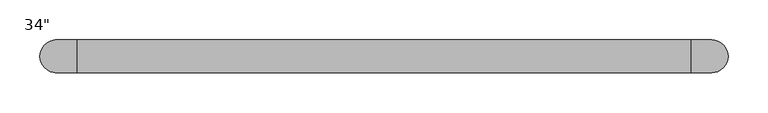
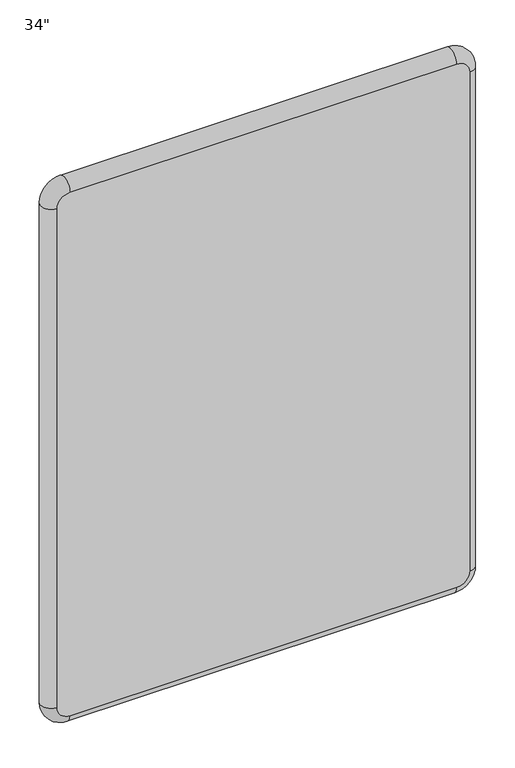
"""IFC4 building model written with IfcOpenShell, lengths in millimetres: furniture geometry."""

import ifcopenshell
import ifcopenshell.guid

model = None  # the IFC model being written
_history = None  # IfcOwnerHistory: only IFC2X3 demands one
_inside = {}  # id of a spatial element -> (the spatial element, [elements in it])
_under = {}  # id of a project, library or spatial element -> (it, [spatial elements below it])
_declared = {}  # id of a project -> (the project, [libraries it declares])
_typed = {}  # id of a type object -> (the type object, [elements of that type])
_made_of = {}  # id of a material, layer set ... -> (it, [elements and type objects made of it])


def new_model(schema):
    """Start an empty IFC model of exactly this schema.

    Asked for "IFC4X3", IfcOpenShell would pick the latest addendum, in which some entities
    have other attributes; the version numbers below select the first issue.
    IFC2X3 requires an IfcOwnerHistory on every rooted entity: one is made here for all.
    """
    global model, _history
    if schema == "IFC4X3":
        model = ifcopenshell.file(schema_version=(4, 3, 0, 0))
    else:
        model = ifcopenshell.file(schema=schema)
    _inside.clear()
    _under.clear()
    _declared.clear()
    _typed.clear()
    _made_of.clear()
    _history = None
    if model.schema == "IFC2X3":
        org = make("IfcOrganization", Name="unknown")
        user = make(
            "IfcPersonAndOrganization",
            ThePerson=make("IfcPerson", FamilyName="unknown"),
            TheOrganization=org,
        )
        app = make(
            "IfcApplication",
            ApplicationDeveloper=org,
            Version="unknown",
            ApplicationFullName="unknown",
            ApplicationIdentifier="unknown",
        )
        _history = make(
            "IfcOwnerHistory",
            OwningUser=user,
            OwningApplication=app,
            ChangeAction="ADDED",
            CreationDate=0,
        )
    return model


def make(cls, **values):
    """One entity of the class cls with the attributes given. An attribute that is None is left unset."""
    return model.create_entity(
        cls, **{name: value for name, value in values.items() if value is not None}
    )


def rooted(cls, **values):
    """An entity with a GlobalId (a new one), such as an element, a storey or a relation."""
    return make(cls, GlobalId=ifcopenshell.guid.new(), OwnerHistory=_history, **values)


def si_unit(unit_type, name, prefix=None):
    """IfcSIUnit, for example si_unit("LENGTHUNIT", "METRE", prefix="MILLI")."""
    return make("IfcSIUnit", UnitType=unit_type, Prefix=prefix, Name=name)


def assignment(units):
    """IfcUnitAssignment: the units of a project."""
    return None if units is None else make("IfcUnitAssignment", Units=units)


def point(xyz):
    """IfcCartesianPoint."""
    return None if xyz is None else make("IfcCartesianPoint", Coordinates=xyz)


def direction(xyz):
    """IfcDirection."""
    return None if xyz is None else make("IfcDirection", DirectionRatios=xyz)


def frame(location, z_axis=None, x_axis=None):
    """IfcAxis2Placement3D, a coordinate frame: its origin and axes. An axis left out is left unset."""
    return make(
        "IfcAxis2Placement3D",
        Location=point(location),
        Axis=direction(z_axis),
        RefDirection=direction(x_axis),
    )


def origin():
    """The frame at (0, 0, 0) with its axes left unset."""
    return frame((0.0, 0.0, 0.0))


def place(relative_to, where):
    """IfcLocalPlacement: puts the frame where relative to a parent placement (None: the world)."""
    return make(
        "IfcLocalPlacement", PlacementRelTo=relative_to, RelativePlacement=where
    )


def context(
    kind, dimensions, precision=None, world=None, true_north=None, identifier=None
):
    """IfcGeometricRepresentationContext, for example the 3D "Model" context."""
    return make(
        "IfcGeometricRepresentationContext",
        ContextIdentifier=identifier,
        ContextType=kind,
        CoordinateSpaceDimension=dimensions,
        Precision=precision,
        WorldCoordinateSystem=world,
        TrueNorth=true_north,
    )


def project(units=None, contexts=None):
    """IfcProject with its units and contexts."""
    return rooted(
        "IfcProject",
        Name="project",
        RepresentationContexts=contexts,
        UnitsInContext=assignment(units),
    )


def spatial(cls, under=None, at=None, **own):
    """A site, building, storey or space (cls), placed at a placement, below another one or the project."""
    s = rooted(cls, ObjectPlacement=at, **own)
    if under is not None:
        _under.setdefault(under.id(), (under, []))[1].append(s)
    return s


def circle_curve(where, radius):
    """IfcCircle in the frame where."""
    return make("IfcCircle", Position=where, Radius=radius)


def ellipse_curve(where, semi_axis1, semi_axis2):
    """IfcEllipse in the frame where."""
    return make(
        "IfcEllipse", Position=where, SemiAxis1=semi_axis1, SemiAxis2=semi_axis2
    )


def trimmed(basis, trim1, trim2, sense, master):
    """IfcTrimmedCurve: the piece of a basis curve between two trims."""
    return make(
        "IfcTrimmedCurve",
        BasisCurve=basis,
        Trim1=trim1,
        Trim2=trim2,
        SenseAgreement=sense,
        MasterRepresentation=master,
    )


def shape(context_of_items, identifier, shape_type, items):
    """IfcShapeRepresentation: the items that make up one representation, for example the "Body"."""
    return make(
        "IfcShapeRepresentation",
        ContextOfItems=context_of_items,
        RepresentationIdentifier=identifier,
        RepresentationType=shape_type,
        Items=items,
    )


def source(mapping_origin, context_of_items, identifier, shape_type, items):
    """IfcRepresentationMap: a shape defined once, which mapped items show again and again."""
    return make(
        "IfcRepresentationMap",
        MappingOrigin=mapping_origin,
        MappedRepresentation=shape(context_of_items, identifier, shape_type, items),
    )


def transform(
    local_origin,
    x_axis=None,
    y_axis=None,
    z_axis=None,
    scale=None,
    scale2=None,
    scale3=None,
    uniform=True,
):
    """IfcCartesianTransformationOperator3D, or its non-uniform kind. x_axis, y_axis, z_axis: its Axis1, 2, 3."""
    if uniform:
        return make(
            "IfcCartesianTransformationOperator3D",
            Axis1=direction(x_axis),
            Axis2=direction(y_axis),
            LocalOrigin=point(local_origin),
            Scale=scale,
            Axis3=direction(z_axis),
        )
    return make(
        "IfcCartesianTransformationOperator3DnonUniform",
        Axis1=direction(x_axis),
        Axis2=direction(y_axis),
        LocalOrigin=point(local_origin),
        Scale=scale,
        Axis3=direction(z_axis),
        Scale2=scale2,
        Scale3=scale3,
    )


def mapped(mapping_source, mapping_target):
    """IfcMappedItem: shows the shape of a source again, moved by a transform."""
    return make(
        "IfcMappedItem", MappingSource=mapping_source, MappingTarget=mapping_target
    )


def made_of(thing, what):
    """Note that an element or type object is made of a material, layer set ...; save() writes the relation."""
    if what is not None:
        _made_of.setdefault(what.id(), (what, []))[1].append(thing)
    return thing


def element(
    cls,
    number,
    at=None,
    inside=None,
    cuts=None,
    type_object=None,
    material=None,
    context=None,
    identifier="Body",
    shape_type=None,
    held_by="IfcProductDefinitionShape",
    body=None,
    shapes=None,
    **own,
):
    """One element of the class cls, such as IfcWall. Its Tag is "e" and its number.

    at: its placement. inside: the storey or other place that contains it. cuts: it is an
    opening in that element (IfcRelVoidsElement). A single representation is given by context,
    identifier, shape_type and body (its items); several are given by shapes. held_by: the class
    of the entity that holds the representations. save() writes the other relations.
    """
    e = rooted(cls, Tag="e%d" % number, ObjectPlacement=at, **own)
    if body is not None:
        shapes = [shape(context, identifier, shape_type, body)]
    if shapes is not None:
        e.Representation = make(held_by, Representations=shapes)
    if inside is not None:
        _inside.setdefault(inside.id(), (inside, []))[1].append(e)
    if cuts is not None:
        rooted(
            "IfcRelVoidsElement", RelatingBuildingElement=cuts, RelatedOpeningElement=e
        )
    if type_object is not None:
        _typed.setdefault(type_object.id(), (type_object, []))[1].append(e)
    return made_of(e, material)


def aggregate(whole, parts):
    """IfcRelAggregates: a whole, such as a stair, and the parts it consists of."""
    return rooted("IfcRelAggregates", RelatingObject=whole, RelatedObjects=parts)


def save(model, path):
    """Write the relations noted so far, then the file.

    IfcRelAggregates (storeys below a building ...), IfcRelContainedInSpatialStructure (elements
    in a storey), IfcRelDefinesByType, IfcRelAssociatesMaterial and IfcRelDeclares: one each for
    every whole, place, type object, material and project.
    """
    for whole, parts in _under.values():
        aggregate(whole, parts)
    for where, things in _inside.values():
        rooted(
            "IfcRelContainedInSpatialStructure",
            RelatedElements=things,
            RelatingStructure=where,
        )
    for kind, things in _typed.values():
        rooted("IfcRelDefinesByType", RelatedObjects=things, RelatingType=kind)
    for what, things in _made_of.values():
        rooted("IfcRelAssociatesMaterial", RelatedObjects=things, RelatingMaterial=what)
    for by, libraries in _declared.values():
        rooted("IfcRelDeclares", RelatingContext=by, RelatedDefinitions=libraries)
    model.write(path)


def plane_surface(at):
    """IfcPlane: the flat surface through the origin of the frame at, square to its z axis."""
    return make("IfcPlane", Position=at)


def cylinder_surface(at, radius):
    """IfcCylindricalSurface: all points at the distance radius from the z axis of the frame at."""
    return make("IfcCylindricalSurface", Position=at, Radius=radius)


def revolved_surface(curve, axis_point, axis_direction):
    """IfcSurfaceOfRevolution: the curve turned about the line through axis_point along axis_direction."""
    return make(
        "IfcSurfaceOfRevolution",
        SweptCurve=make("IfcArbitraryOpenProfileDef", ProfileType="CURVE", Curve=curve),
        AxisPosition=make("IfcAxis1Placement", Location=point(axis_point), Axis=direction(axis_direction)),
    )


def advanced_brep(points, edges, surfaces, faces):
    """IfcAdvancedBrep: a solid bounded by faces that lie on surfaces and meet in shared edges.

    An edge is (start, end): straight between two places in points (the first is 0);
    or (start, end, curve); or (start, end, curve, False) where it runs against its curve.
    A face is (place in surfaces, loops), or (place, loops, False) where it looks against
    its surface's normal. A loop lists edges by number (the first is 1), with a minus sign
    where the edge is run from its end to its start. The first loop is the outer one.
    """
    corners = [point(p) for p in points]
    vertices = [make("IfcVertexPoint", VertexGeometry=c) for c in corners]
    made = []
    for start, end, *more in edges:
        made.append(
            make(
                "IfcEdgeCurve",
                EdgeStart=vertices[start],
                EdgeEnd=vertices[end],
                EdgeGeometry=more[0] if more else make("IfcPolyline", Points=[corners[start], corners[end]]),
                SameSense=more[1] if len(more) > 1 else True,
            )
        )
    hull = []
    for where, loops, *sense in faces:
        bounds = []
        for j, loop in enumerate(loops):
            ring = [make("IfcOrientedEdge", EdgeElement=made[abs(k) - 1], Orientation=k > 0) for k in loop]
            bounds.append(
                make(
                    "IfcFaceOuterBound" if j == 0 else "IfcFaceBound",
                    Bound=make("IfcEdgeLoop", EdgeList=ring),
                    Orientation=True,
                )
            )
        hull.append(make("IfcAdvancedFace", Bounds=bounds, FaceSurface=surfaces[where], SameSense=sense[0] if sense else True))
    return make("IfcAdvancedBrep", Outer=make("IfcClosedShell", CfsFaces=hull))


def furniture_e75e87eb(model_context):
    return source(origin(), model_context, "Body", "AdvancedBrep", [
        advanced_brep(
        [(385.6348317, 41.275, 1165.225), (411.1625, 41.275, 1139.6973317), (411.1625, 41.275, 89.0276683), (385.6348317, 41.275, 63.5), (-385.6348317, 41.275, 63.5), (-411.1625, 41.275, 89.0276683), (-411.1625, 41.275, 1139.6973317), (-385.6348317, 41.275, 1165.225), (411.1625, 0.0, 1139.6973075), (385.6348317, 0.0, 1165.225), (-385.6348282, 0.0, 1165.225), (-411.1625, 0.0, 1139.6973317), (-411.1625, 0.0, 89.0276687), (-385.6348317, 0.0, 63.5), (385.6348042, 0.0, 63.5), (411.1625, 0.0, 89.0276683)],
        [
            (0, 1, circle_curve(frame((385.6348317, 41.275, 1139.6973317), z_axis=(0.0, 1.0, 0.0), x_axis=(0.0, 0.0, 1.0)), 25.5276683)),
            (1, 2),
            (2, 3, circle_curve(frame((385.6348317, 41.275, 89.0276683), z_axis=(0.0, 1.0, 0.0), x_axis=(1.0, 0.0, 0.0)), 25.5276683)),
            (3, 4),
            (4, 5, circle_curve(frame((-385.6348317, 41.275, 89.0276683), z_axis=(0.0, 1.0, 0.0), x_axis=(0.0, 0.0, -1.0)), 25.5276683)),
            (5, 6),
            (6, 7, circle_curve(frame((-385.6348317, 41.275, 1139.6973317), z_axis=(0.0, 1.0, 0.0), x_axis=(-1.0, 0.0, 0.0)), 25.5276683)),
            (7, 0),
            (8, 9, circle_curve(frame((385.6348317, 0.0, 1139.6973317), z_axis=(0.0, -1.0, 0.0), x_axis=(0.0, 0.0, 1.0)), 25.5276683)),
            (9, 10),
            (10, 11, circle_curve(frame((-385.6348317, 0.0, 1139.6973317), z_axis=(0.0, -1.0, 0.0), x_axis=(-1.0, 0.0, 0.0)), 25.5276683)),
            (11, 12),
            (12, 13, circle_curve(frame((-385.6348317, 0.0, 89.0276683), z_axis=(0.0, -1.0, 0.0), x_axis=(0.0, 0.0, -1.0)), 25.5276683)),
            (13, 14),
            (14, 15, circle_curve(frame((385.6348317, 0.0, 89.0276683), z_axis=(0.0, -1.0, 0.0), x_axis=(1.0, 0.0, 0.0)), 25.5276683)),
            (15, 8),
            (0, 9, circle_curve(frame((385.6348317, 20.6375, 1165.225), z_axis=(1.0, 0.0, 0.0), x_axis=(0.0, 0.0, 1.0)), 20.6375)),
            (8, 1, circle_curve(frame((411.1625, 20.6375, 1139.6973317), z_axis=(0.0, 0.0, 1.0), x_axis=(1.0, 0.0, 0.0)), 20.6375)),
            (15, 2, circle_curve(frame((411.1625, 20.6375, 89.0276683), z_axis=(0.0, 0.0, 1.0), x_axis=(1.0, 0.0, 0.0)), 20.6375)),
            (14, 3, circle_curve(frame((385.6348317, 20.6375, 63.5), z_axis=(1.0, 0.0, 0.0), x_axis=(0.0, 0.0, -1.0)), 20.6375)),
            (13, 4, circle_curve(frame((-385.6348317, 20.6375, 63.5), z_axis=(1.0, 0.0, 0.0), x_axis=(0.0, 0.0, -1.0)), 20.6375)),
            (12, 5, circle_curve(frame((-411.1625, 20.6375, 89.0276683), z_axis=(0.0, 0.0, -1.0), x_axis=(-1.0, 0.0, 0.0)), 20.6375)),
            (11, 6, circle_curve(frame((-411.1625, 20.6375, 1139.6973317), z_axis=(0.0, 0.0, -1.0), x_axis=(-1.0, 0.0, 0.0)), 20.6375)),
            (10, 7, circle_curve(frame((-385.6348317, 20.6375, 1165.225), z_axis=(-1.0, 0.0, 0.0), x_axis=(0.0, 0.0, 1.0)), 20.6375)),
        ],
        [
            plane_surface(frame((-385.6348317, 41.275, 1165.225), z_axis=(0.0, 1.0, 0.0), x_axis=(1.0, 0.0, 0.0))),
            plane_surface(frame((-385.6348317, 0.0, 1165.225), z_axis=(0.0, -1.0, 0.0), x_axis=(-1.0, 0.0, 0.0))),
            revolved_surface(trimmed(ellipse_curve(frame((385.6348317, 20.6375, 1165.225), z_axis=(-1.0, 0.0, 0.0), x_axis=(0.0, 0.0, 1.0)), 20.6375, 20.6375), [point((385.6348317, 0.0, 1165.225))], [point((385.6348317, 41.275, 1165.225))], True, "CARTESIAN"), (385.6348317, 0.0, 1139.6973317), (0.0, 1.0, 0.0)),
            cylinder_surface(frame((411.1625, 20.6375, 1139.6973317), z_axis=(0.0, 0.0, 1.0), x_axis=(1.0, 0.0, 0.0)), 20.6375),
            revolved_surface(trimmed(ellipse_curve(frame((411.1625, 20.6375, 89.0276683), z_axis=(0.0, 0.0, 1.0), x_axis=(1.0, 0.0, 0.0)), 20.6375, 20.6375), [point((411.1625, 0.0, 89.0276683))], [point((411.1625, 41.275, 89.0276683))], True, "CARTESIAN"), (385.6348317, 0.0, 89.0276683), (0.0, 1.0, 0.0)),
            cylinder_surface(frame((385.6348317, 20.6375, 63.5), z_axis=(1.0, 0.0, 0.0), x_axis=(0.0, 0.0, -1.0)), 20.6375),
            revolved_surface(trimmed(ellipse_curve(frame((-385.6348317, 20.6375, 63.5), z_axis=(1.0, 0.0, 0.0), x_axis=(0.0, 0.0, -1.0)), 20.6375, 20.6375), [point((-385.6348317, 0.0, 63.5))], [point((-385.6348317, 41.275, 63.5))], True, "CARTESIAN"), (-385.6348317, 0.0, 89.0276683), (0.0, 1.0, 0.0)),
            cylinder_surface(frame((-411.1625, 20.6375, 89.0276683), z_axis=(0.0, 0.0, -1.0), x_axis=(-1.0, 0.0, 0.0)), 20.6375),
            revolved_surface(trimmed(ellipse_curve(frame((-411.1625, 20.6375, 1139.6973317), z_axis=(0.0, 0.0, -1.0), x_axis=(-1.0, 0.0, 0.0)), 20.6375, 20.6375), [point((-411.1625, 0.0, 1139.6973317))], [point((-411.1625, 41.275, 1139.6973317))], True, "CARTESIAN"), (-385.6348317, 0.0, 1139.6973317), (0.0, 1.0, 0.0)),
            cylinder_surface(frame((-385.6348317, 20.6375, 1165.225), z_axis=(-1.0, 0.0, 0.0), x_axis=(0.0, 0.0, 1.0)), 20.6375),
        ],
        [
            (0, [[1, 2, 3, 4, 5, 6, 7, 8]]),
            (1, [[9, 10, 11, 12, 13, 14, 15, 16]]),
            (2, [[17, -9, 18, -1]]),
            (3, [[-18, -16, 19, -2]]),
            (4, [[-19, -15, 20, -3]]),
            (5, [[-20, -14, 21, -4]]),
            (6, [[-21, -13, 22, -5]]),
            (7, [[-22, -12, 23, -6]]),
            (8, [[-23, -11, 24, -7]]),
            (9, [[-17, -8, -24, -10]]),
        ],
    ),
    ])


if __name__ == "__main__":
    model = new_model("IFC4")
    model_context = context("Model", 3, world=origin())
    ifc_project = project(units=[si_unit("LENGTHUNIT", "METRE", prefix="MILLI")], contexts=[model_context])
    site = spatial("IfcSite", under=ifc_project)
    building = spatial("IfcBuilding", under=site)
    placement = place(None, origin())
    furniture_shape = furniture_e75e87eb(model_context)
    element("IfcFurniture", 1, ObjectType="Stylex - Yoom Screen : 34\"", at=placement, inside=building, context=model_context, shape_type="MappedRepresentation", body=[
        mapped(furniture_shape, transform((0.0, 0.0, 0.0), x_axis=(1.0, 0.0, 0.0), y_axis=(0.0, 1.0, 0.0), z_axis=(0.0, 0.0, 1.0))),
    ])
    save(model, "model.ifc")
